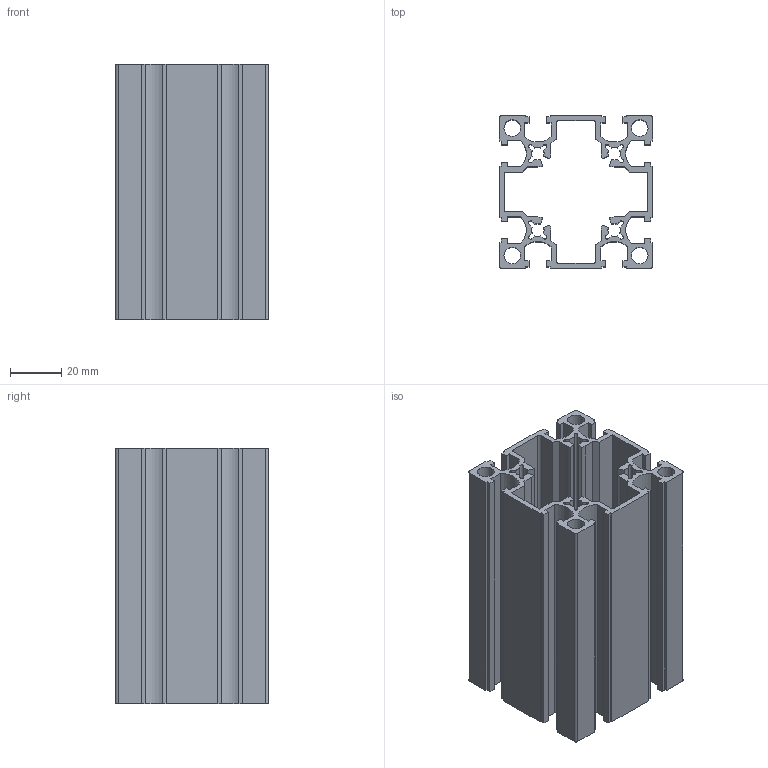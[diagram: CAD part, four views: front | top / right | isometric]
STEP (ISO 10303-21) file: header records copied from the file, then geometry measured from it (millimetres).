
FILE_DESCRIPTION(/* description */ (''),/* implementation_level */ '2;1');
FILE_NAME(/* name */ 'C:\Users\Owner\Documents\硯聰\Inv材料庫-3D新型錄\AM-(鋁擠)\6系列\AM6-6060_100L.stp',/* time_stamp */ '2019-02-21T14:26:31+08:00',/* author */ ('Owner'),/* organization */ (''),/* preprocessor_version */ 'ST-DEVELOPER v16.1',/* originating_system */ 'Autodesk Inventor 2016',/* authorisation */ '');
FILE_SCHEMA (('AUTOMOTIVE_DESIGN { 1 0 10303 214 3 1 1 }'));
Length unit declared in the file: millimetre
Products named in the file (1): AM6-6060_100L
Bounding box: 60 x 60 x 100 mm (x, y, z)
Volume: 86338 mm3; surface area: 85377.9 mm2
Topology: 1 solids, 1 shells, 210 faces, 624 edges, 416 vertices
Faces by surface type: plane 154, cylinder 56
Full cylindrical faces by diameter (mm): 6.5 x4
Entity records: 7024 total; most frequent: CARTESIAN_POINT 1247, ORIENTED_EDGE 1240, DIRECTION 1154, EDGE_CURVE 620, LINE 508, VECTOR 508, VERTEX_POINT 416, AXIS2_PLACEMENT_3D 323
